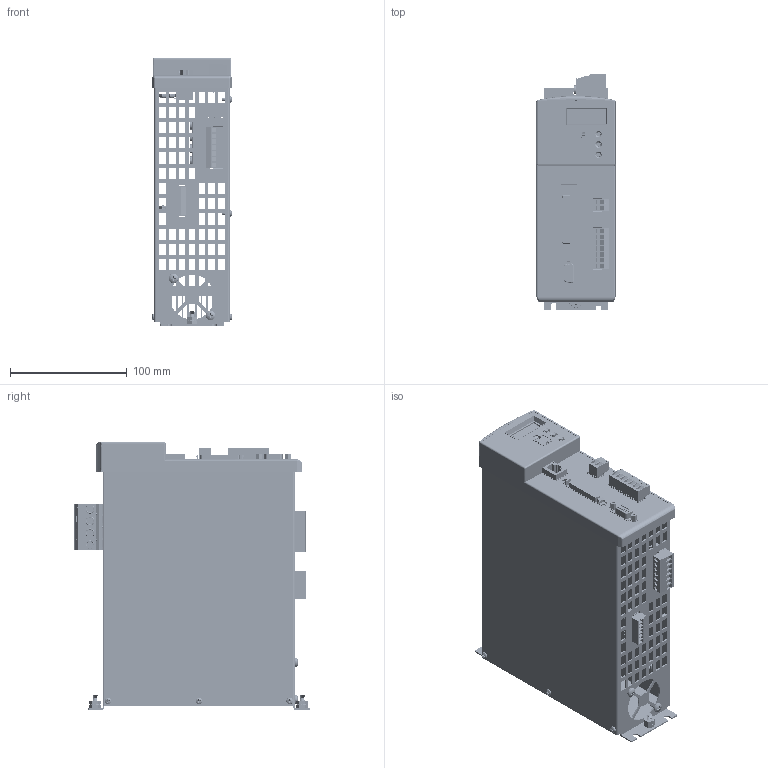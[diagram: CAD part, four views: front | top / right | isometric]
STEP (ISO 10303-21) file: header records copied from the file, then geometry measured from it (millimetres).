
FILE_DESCRIPTION (( 'STEP AP203' ), '1' );
FILE_NAME ('2097-V34PR6-new.STEP', '2009-12-16T19:47:51', ( 'IT Department' ), ( 'ACTech Lenze' ), 'SwSTEP 2.0', 'SolidWorks 2009', '' );
FILE_SCHEMA (( 'CONFIG_CONTROL_DESIGN' ));
Length unit declared in the file: inch
Products named in the file (38): 402-164_7 POS OUT3; 9360_Display Board Assy12; 204-30; cb-sw_702-196; 402-086_2 POS9; 9368_240v 12amp3; 9174-4; 402-098_7-5 Straight Pin3; 402-097_2-2 Straight Pin3; 402-079_7 PIN-4 ACTIVE10; 402-97; 402-095; 9354_Control Board Assy12; c-1734090; 401-235; 401-209; 402-146; 607-357 ASSY3; 607-360; FHS-832-8_PEM FH-832-8 X--S12; FHS-632-16 _PreviewCfg3; Nut 8-32_813-541; NEW 218-001_Assembled12; 600-029_Single12; 605-357 Assy12; 401-147; 207-567; 605-357_32; 600-028_New12; TAPTITE_813-171; 402-125; 2097-V34PR6-new; 607-329-Assy3; 607-329-A_New Filter3; CLA-M4-4; 600-084_Hooks12; 402-084_7 POS OUT3; PAN-8 Type-B_813-68
Assembly tree (56 placements, depth 4):
  2097-V34PR6-new
    TAPTITE_813-171  x9
    NEW 218-001_Assembled12
      600-029_Single12
      600-028_New12
      605-357 Assy12
        605-357_32
        401-147
        207-567
    Nut 8-32_813-541  x4
    PAN-8 Type-B_813-68  x2
    402-084_7 POS OUT3
    402-086_2 POS9
    402-164_7 POS OUT3
    600-084_Hooks12
    9360_Display Board Assy12
      cb-sw_702-196  x3
      204-30
    607-357 ASSY3
      FHS-832-8_PEM FH-832-8 X--S12  x2
      FHS-632-16 _PreviewCfg3  x4
      607-360
    9368_240v 12amp3
      402-97
      402-079_7 PIN-4 ACTIVE10
      9174-4
        402-097_2-2 Straight Pin3
        402-098_7-5 Straight Pin3
    607-329-Assy3
      CLA-M4-4  x2
      607-329-A_New Filter3
    9354_Control Board Assy12
      402-146
      c-1734090
      401-209
      401-235
    402-125
    402-095
Bounding box: 69.02 x 202.09 x 229.62 mm (x, y, z)
Volume: 201238.1 mm3; surface area: 307916.5 mm2
Topology: 50 solids, 62 shells, 6640 faces, 17173 edges, 11057 vertices
Faces by surface type: plane 4199, cylinder 1417, cone 743, bspline 177, torus 79, sphere 25
Entity records: 187063 total; most frequent: CARTESIAN_POINT 49092, ORIENTED_EDGE 28391, DIRECTION 25718, EDGE_CURVE 14199, VECTOR 10560, LINE 10560, VERTEX_POINT 9275, AXIS2_PLACEMENT_3D 7579
